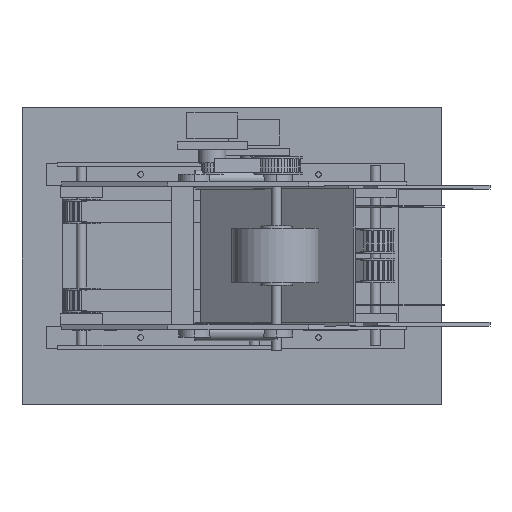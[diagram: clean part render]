
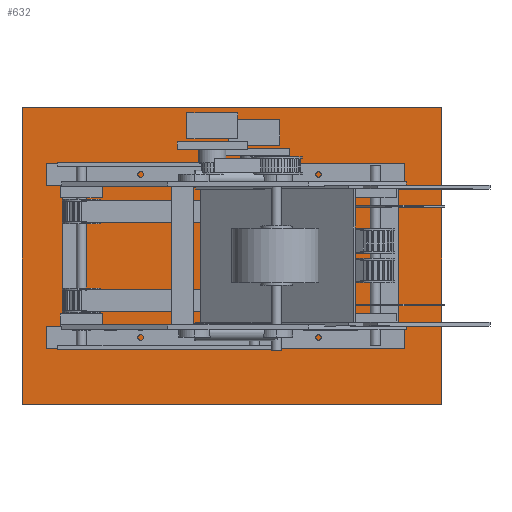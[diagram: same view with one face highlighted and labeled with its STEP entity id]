
A CAD part, top view. The second image highlights one B-rep face of the part: STEP entity #632.
In plain terms, the highlighted planar face has unit normal (0, 0, 1).
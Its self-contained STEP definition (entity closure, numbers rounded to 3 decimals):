
#318 = VERTEX_POINT('',#319);
#319 = CARTESIAN_POINT('',(-160.,-120.,0.));
#326 = PLANE('',#327);
#327 = AXIS2_PLACEMENT_3D('',#328,#329,#330);
#328 = CARTESIAN_POINT('',(-160.,-120.,-4.));
#329 = DIRECTION('',(1.,0.,0.));
#330 = DIRECTION('',(0.,0.,1.));
#338 = PLANE('',#339);
#339 = AXIS2_PLACEMENT_3D('',#340,#341,#342);
#340 = CARTESIAN_POINT('',(-160.,-120.,-4.));
#341 = DIRECTION('',(0.,1.,0.));
#342 = DIRECTION('',(0.,0.,1.));
#379 = VERTEX_POINT('',#380);
#380 = CARTESIAN_POINT('',(-160.,120.,0.));
#394 = PLANE('',#395);
#395 = AXIS2_PLACEMENT_3D('',#396,#397,#398);
#396 = CARTESIAN_POINT('',(-160.,120.,-4.));
#397 = DIRECTION('',(0.,1.,0.));
#398 = DIRECTION('',(0.,0.,1.));
#406 = EDGE_CURVE('',#318,#379,#407,.T.);
#407 = SURFACE_CURVE('',#408,(#412,#419),.PCURVE_S1.);
#408 = LINE('',#409,#410);
#409 = CARTESIAN_POINT('',(-160.,-120.,0.));
#410 = VECTOR('',#411,1.);
#411 = DIRECTION('',(0.,1.,0.));
#412 = PCURVE('',#326,#413);
#413 = DEFINITIONAL_REPRESENTATION('',(#414),#418);
#414 = LINE('',#415,#416);
#415 = CARTESIAN_POINT('',(4.,0.));
#416 = VECTOR('',#417,1.);
#417 = DIRECTION('',(0.,-1.));
#418 = ( GEOMETRIC_REPRESENTATION_CONTEXT(2) 
PARAMETRIC_REPRESENTATION_CONTEXT() REPRESENTATION_CONTEXT('2D SPACE',''
  ) );
#419 = PCURVE('',#420,#425);
#420 = PLANE('',#421);
#421 = AXIS2_PLACEMENT_3D('',#422,#423,#424);
#422 = CARTESIAN_POINT('',(-160.,-120.,0.));
#423 = DIRECTION('',(0.,0.,1.));
#424 = DIRECTION('',(1.,0.,0.));
#425 = DEFINITIONAL_REPRESENTATION('',(#426),#430);
#426 = LINE('',#427,#428);
#427 = CARTESIAN_POINT('',(0.,0.));
#428 = VECTOR('',#429,1.);
#429 = DIRECTION('',(0.,1.));
#430 = ( GEOMETRIC_REPRESENTATION_CONTEXT(2) 
PARAMETRIC_REPRESENTATION_CONTEXT() REPRESENTATION_CONTEXT('2D SPACE',''
  ) );
#438 = VERTEX_POINT('',#439);
#439 = CARTESIAN_POINT('',(180.,-120.,0.));
#446 = PLANE('',#447);
#447 = AXIS2_PLACEMENT_3D('',#448,#449,#450);
#448 = CARTESIAN_POINT('',(180.,-120.,-4.));
#449 = DIRECTION('',(1.,0.,0.));
#450 = DIRECTION('',(0.,0.,1.));
#489 = VERTEX_POINT('',#490);
#490 = CARTESIAN_POINT('',(180.,120.,0.));
#511 = EDGE_CURVE('',#438,#489,#512,.T.);
#512 = SURFACE_CURVE('',#513,(#517,#524),.PCURVE_S1.);
#513 = LINE('',#514,#515);
#514 = CARTESIAN_POINT('',(180.,-120.,0.));
#515 = VECTOR('',#516,1.);
#516 = DIRECTION('',(0.,1.,0.));
#517 = PCURVE('',#446,#518);
#518 = DEFINITIONAL_REPRESENTATION('',(#519),#523);
#519 = LINE('',#520,#521);
#520 = CARTESIAN_POINT('',(4.,0.));
#521 = VECTOR('',#522,1.);
#522 = DIRECTION('',(0.,-1.));
#523 = ( GEOMETRIC_REPRESENTATION_CONTEXT(2) 
PARAMETRIC_REPRESENTATION_CONTEXT() REPRESENTATION_CONTEXT('2D SPACE',''
  ) );
#524 = PCURVE('',#420,#525);
#525 = DEFINITIONAL_REPRESENTATION('',(#526),#530);
#526 = LINE('',#527,#528);
#527 = CARTESIAN_POINT('',(340.,0.));
#528 = VECTOR('',#529,1.);
#529 = DIRECTION('',(0.,1.));
#530 = ( GEOMETRIC_REPRESENTATION_CONTEXT(2) 
PARAMETRIC_REPRESENTATION_CONTEXT() REPRESENTATION_CONTEXT('2D SPACE',''
  ) );
#557 = EDGE_CURVE('',#318,#438,#558,.T.);
#558 = SURFACE_CURVE('',#559,(#563,#570),.PCURVE_S1.);
#559 = LINE('',#560,#561);
#560 = CARTESIAN_POINT('',(-160.,-120.,0.));
#561 = VECTOR('',#562,1.);
#562 = DIRECTION('',(1.,0.,0.));
#563 = PCURVE('',#338,#564);
#564 = DEFINITIONAL_REPRESENTATION('',(#565),#569);
#565 = LINE('',#566,#567);
#566 = CARTESIAN_POINT('',(4.,0.));
#567 = VECTOR('',#568,1.);
#568 = DIRECTION('',(0.,1.));
#569 = ( GEOMETRIC_REPRESENTATION_CONTEXT(2) 
PARAMETRIC_REPRESENTATION_CONTEXT() REPRESENTATION_CONTEXT('2D SPACE',''
  ) );
#570 = PCURVE('',#420,#571);
#571 = DEFINITIONAL_REPRESENTATION('',(#572),#576);
#572 = LINE('',#573,#574);
#573 = CARTESIAN_POINT('',(0.,0.));
#574 = VECTOR('',#575,1.);
#575 = DIRECTION('',(1.,0.));
#576 = ( GEOMETRIC_REPRESENTATION_CONTEXT(2) 
PARAMETRIC_REPRESENTATION_CONTEXT() REPRESENTATION_CONTEXT('2D SPACE',''
  ) );
#604 = EDGE_CURVE('',#379,#489,#605,.T.);
#605 = SURFACE_CURVE('',#606,(#610,#617),.PCURVE_S1.);
#606 = LINE('',#607,#608);
#607 = CARTESIAN_POINT('',(-160.,120.,0.));
#608 = VECTOR('',#609,1.);
#609 = DIRECTION('',(1.,0.,0.));
#610 = PCURVE('',#394,#611);
#611 = DEFINITIONAL_REPRESENTATION('',(#612),#616);
#612 = LINE('',#613,#614);
#613 = CARTESIAN_POINT('',(4.,0.));
#614 = VECTOR('',#615,1.);
#615 = DIRECTION('',(0.,1.));
#616 = ( GEOMETRIC_REPRESENTATION_CONTEXT(2) 
PARAMETRIC_REPRESENTATION_CONTEXT() REPRESENTATION_CONTEXT('2D SPACE',''
  ) );
#617 = PCURVE('',#420,#618);
#618 = DEFINITIONAL_REPRESENTATION('',(#619),#623);
#619 = LINE('',#620,#621);
#620 = CARTESIAN_POINT('',(0.,240.));
#621 = VECTOR('',#622,1.);
#622 = DIRECTION('',(1.,0.));
#623 = ( GEOMETRIC_REPRESENTATION_CONTEXT(2) 
PARAMETRIC_REPRESENTATION_CONTEXT() REPRESENTATION_CONTEXT('2D SPACE',''
  ) );
#632 = ADVANCED_FACE('',(#633),#420,.T.);
#633 = FACE_BOUND('',#634,.T.);
#634 = EDGE_LOOP('',(#635,#636,#637,#638));
#635 = ORIENTED_EDGE('',*,*,#406,.F.);
#636 = ORIENTED_EDGE('',*,*,#557,.T.);
#637 = ORIENTED_EDGE('',*,*,#511,.T.);
#638 = ORIENTED_EDGE('',*,*,#604,.F.);
